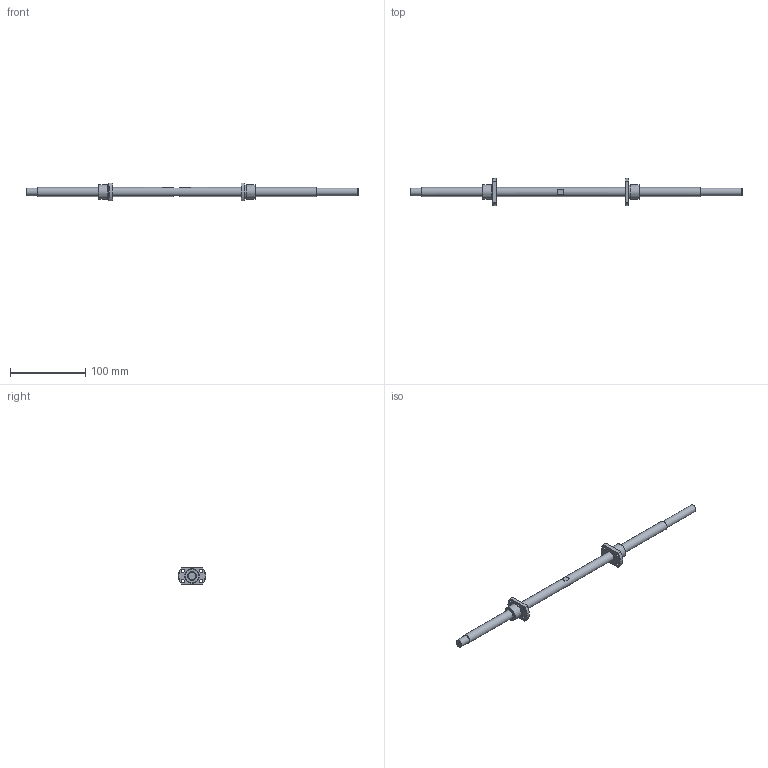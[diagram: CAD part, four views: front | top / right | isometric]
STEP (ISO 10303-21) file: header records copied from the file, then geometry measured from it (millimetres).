
FILE_DESCRIPTION( ( 'STEP AP214' ), ' ' );
FILE_NAME( 'p:/temp/worker_8/904_3764/app_78_12015091122122519828905260eae72_000000_00_00_000000/format_0/SD1202-180L180R440C3(81)(81).stp', '2015-09-11T20:12:25', ( '' ), ( '' ), ' ', 'PARTsolutions', ' ' );
FILE_SCHEMA( ( 'AUTOMOTIVE_DESIGN { 1 0 10303 214 1 1 1 1 }' ) );
Length unit declared in the file: millimetre
Products named in the file (3): SD1202-180L180R440C3(81)(81); _SD1202-180L180R440C3_(8181)Shaft; _SD1202C3_n
Assembly tree (3 placements, depth 2):
  SD1202-180L180R440C3(81)(81)
    _SD1202-180L180R440C3_(8181)Shaft
    _SD1202C3_n  x2
Bounding box: 440 x 36 x 23 mm (x, y, z)
Volume: 58201.1 mm3; surface area: 23439.5 mm2
Topology: 3 solids, 3 shells, 57 faces, 126 edges, 82 vertices
Faces by surface type: plane 22, cylinder 21, cone 14
Full cylindrical faces by diameter (mm): 4.5 x8, 10.3 x2, 12 x3, 18.7 x2, 19 x2
Entity records: 1298 total; most frequent: CARTESIAN_POINT 175, DIRECTION 172, ORIENTED_EDGE 122, AXIS2_PLACEMENT_3D 78, EDGE_LOOP 68, EDGE_CURVE 61, VERTEX_POINT 49, FACE_OUTER_BOUND 47
